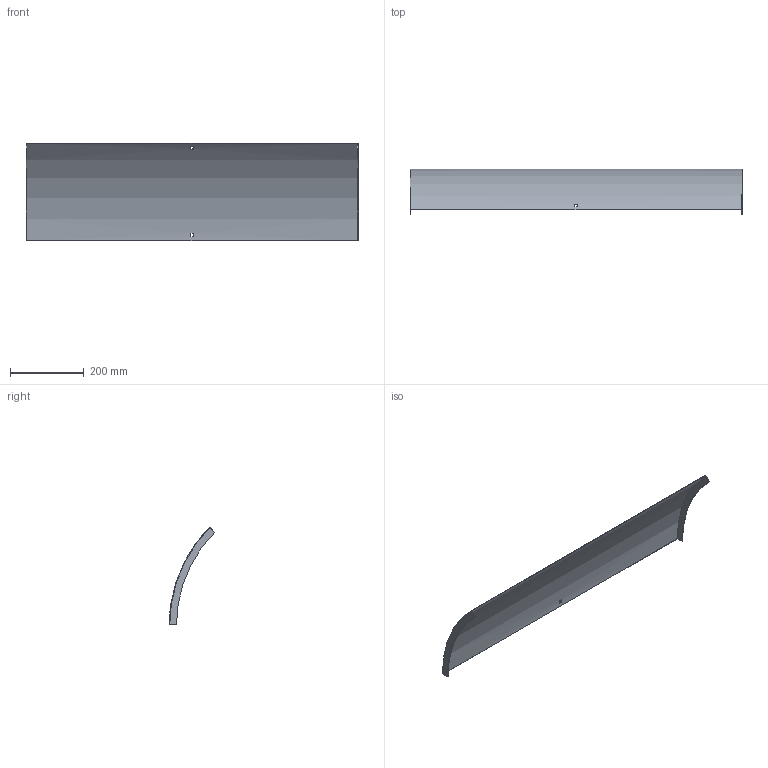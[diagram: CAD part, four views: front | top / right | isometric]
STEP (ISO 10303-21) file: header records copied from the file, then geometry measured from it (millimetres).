
FILE_DESCRIPTION (( 'STEP AP214' ), '1' );
FILE_NAME ('B2_34N3C900.step', '2025-02-21T10:36:16', ( '' ), ( '' ), 'SwSTEP 2.0', 'SolidWorks 2023', '' );
FILE_SCHEMA (( 'AUTOMOTIVE_DESIGN' ));
Length unit declared in the file: millimetre
Products named in the file (1): B2_34N3C900
Bounding box: 903 x 124.42 x 266.23 mm (x, y, z)
Volume: 415498.3 mm3; surface area: 557752.5 mm2
Topology: 1 solids, 1 shells, 18 faces, 48 edges, 32 vertices
Faces by surface type: plane 14, cylinder 4
Entity records: 599 total; most frequent: DIRECTION 102, CARTESIAN_POINT 99, ORIENTED_EDGE 96, EDGE_CURVE 48, AXIS2_PLACEMENT_3D 35, VERTEX_POINT 32, LINE 32, VECTOR 32
